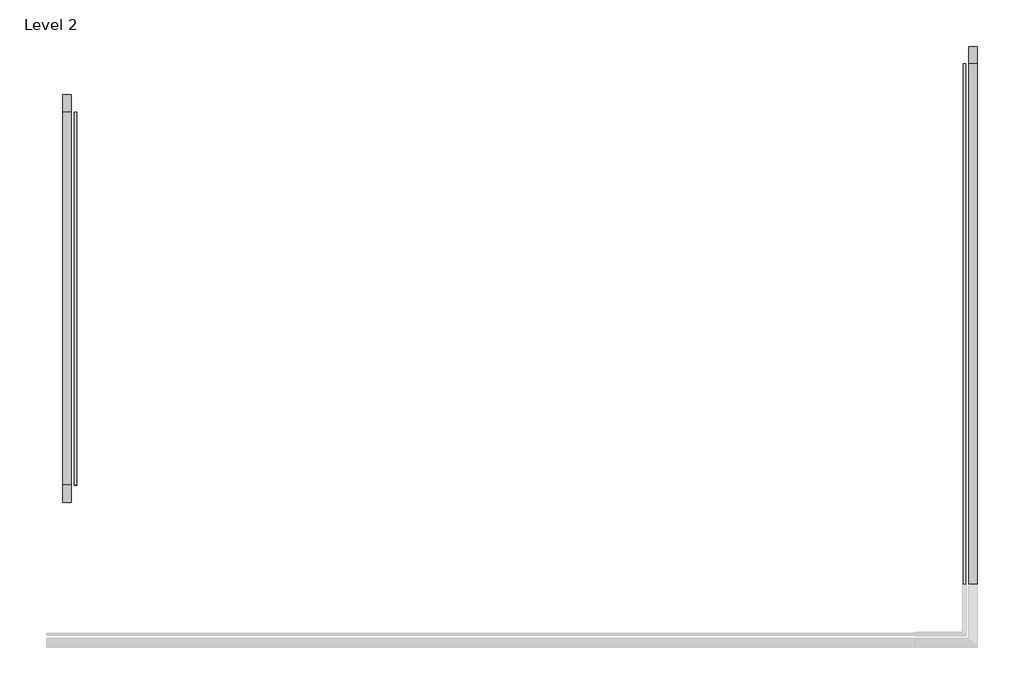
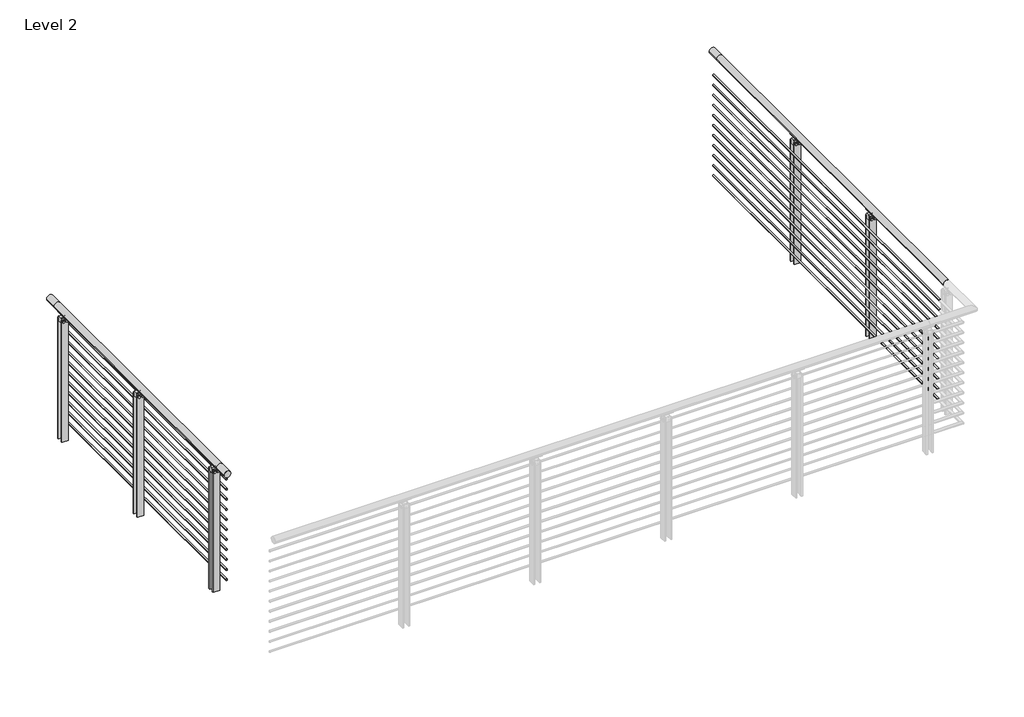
# One storey, part 15 of 31: 2 railings.
"""IFC4 building model written with IfcOpenShell, lengths in millimetres."""

from ifc_helpers import new_model, si_unit, point, frame, frame_2d, origin, place, context, project, spatial, polyline, circle_curve, trimmed, segment, composite_curve, outline, extrude, element, save
from ifc_brep_helpers import plane_surface, cylinder_surface, revolved_surface, advanced_brep

model = new_model("IFC4")

# Units and contexts
model_context = context("Model", 3, world=origin())
ifc_project = project(units=[si_unit("LENGTHUNIT", "METRE", prefix="MILLI")], contexts=[model_context])

# Site, building, storey
site = spatial("IfcSite", under=ifc_project)
building = spatial("IfcBuilding", under=site)
storey = spatial("IfcBuildingStorey", under=building, Name="Level 2", Elevation=3048.0)

# Railings
placement = place(None, origin())
element("IfcRailing", 1, ObjectType="VIVA-BLADE-Multiline-Weld Mount-Straight", at=placement, inside=storey, context=model_context, shape_type="SolidModel", body=[
    advanced_brep(
    [(41179.5572927, -69164.3733194, 4102.1), (41128.7572927, -69164.3733194, 4102.1), (41179.5572927, -69062.7733194, 4102.1), (41128.7572927, -69062.7733194, 4102.1), (41179.5572927, -66878.3733194, 4102.1), (41128.7572927, -66878.3733194, 4102.1), (41179.5572927, -66776.7733194, 4102.1), (41128.7572927, -66776.7733194, 4102.1)],
    [
        (0, 1, circle_curve(frame((41154.1572927, -69164.3733194, 4102.1), z_axis=(0.0, -1.0, 0.0), x_axis=(-1.0, 0.0, 0.0)), 25.4)),
        (1, 0, circle_curve(frame((41154.1572927, -69164.3733194, 4102.1), z_axis=(0.0, -1.0, 0.0), x_axis=(-1.0, 0.0, 0.0)), 25.4)),
        (0, 2),
        (2, 3, circle_curve(frame((41154.1572927, -69062.7733194, 4102.1), z_axis=(0.0, -1.0, 0.0), x_axis=(-1.0, 0.0, 0.0)), 25.4)),
        (3, 1),
        (3, 2, circle_curve(frame((41154.1572927, -69062.7733194, 4102.1), z_axis=(0.0, -1.0, 0.0), x_axis=(-1.0, 0.0, 0.0)), 25.4)),
        (2, 4),
        (4, 5, circle_curve(frame((41154.1572927, -66878.3733194, 4102.1), z_axis=(0.0, -1.0, 0.0), x_axis=(-1.0, 0.0, 0.0)), 25.4)),
        (5, 3),
        (5, 4, circle_curve(frame((41154.1572927, -66878.3733194, 4102.1), z_axis=(0.0, -1.0, 0.0), x_axis=(-1.0, 0.0, 0.0)), 25.4)),
        (6, 7, circle_curve(frame((41154.1572927, -66776.7733194, 4102.1), z_axis=(0.0, 1.0, 0.0), x_axis=(-1.0, 0.0, 0.0)), 25.4)),
        (7, 6, circle_curve(frame((41154.1572927, -66776.7733194, 4102.1), z_axis=(0.0, 1.0, 0.0), x_axis=(-1.0, 0.0, 0.0)), 25.4)),
        (4, 6),
        (7, 5),
    ],
    [
        plane_surface(frame((41154.1572927, -69164.3733194, 4127.5), z_axis=(0.0, -1.0, 0.0), x_axis=(0.0, 0.0, 1.0))),
        cylinder_surface(frame((41154.1572927, -69164.3733194, 4102.1), z_axis=(0.0, -1.0, 0.0), x_axis=(-1.0, 0.0, 0.0)), 25.4),
        cylinder_surface(frame((41154.1572927, -69062.7733194, 4102.1), z_axis=(0.0, -1.0, 0.0), x_axis=(-1.0, 0.0, 0.0)), 25.4),
        plane_surface(frame((41154.1572927, -66776.7733194, 4127.5), z_axis=(0.0, 1.0, 0.0), x_axis=(0.0, 0.0, 1.0))),
        cylinder_surface(frame((41154.1572927, -66878.3733194, 4102.1), z_axis=(0.0, -1.0, 0.0), x_axis=(-1.0, 0.0, 0.0)), 25.4),
    ],
    [
        (0, [[1, 2]]),
        (1, [[-1, 3, 4, 5]]),
        (1, [[-2, -5, 6, -3]]),
        (2, [[-4, 7, 8, 9]]),
        (2, [[-6, -9, 10, -7]]),
        (3, [[11, 12]]),
        (4, [[-8, 13, -12, 14]]),
        (4, [[-10, -14, -11, -13]]),
    ],
),
    extrude(outline(composite_curve([segment(trimmed(circle_curve(frame_2d((3981.45, 41204.9572927)), 6.35), [point((3981.45, 41211.3072927))], [point((3981.45, 41198.6072927))], False, "CARTESIAN"), True, "CONTINUOUS"), segment(trimmed(circle_curve(frame_2d((3981.45, 41204.9572927)), 6.35), [point((3981.45, 41198.6072927))], [point((3981.45, 41211.3072927))], False, "CARTESIAN"), True, "CONTINUOUS")], self_intersect=False)), frame((0.0, -69062.7733194, 0.0), z_axis=(0.0, 1.0, 0.0), x_axis=(0.0, 0.0, 1.0)), (0.0, 0.0, 1.0), 2184.4),
    extrude(outline(composite_curve([segment(trimmed(circle_curve(frame_2d((3898.9, 41204.9572927)), 6.35), [point((3898.9, 41211.3072927))], [point((3898.9, 41198.6072927))], False, "CARTESIAN"), True, "CONTINUOUS"), segment(trimmed(circle_curve(frame_2d((3898.9, 41204.9572927)), 6.35), [point((3898.9, 41198.6072927))], [point((3898.9, 41211.3072927))], False, "CARTESIAN"), True, "CONTINUOUS")], self_intersect=False)), frame((0.0, -69062.7733194, 0.0), z_axis=(0.0, 1.0, 0.0), x_axis=(0.0, 0.0, 1.0)), (0.0, 0.0, 1.0), 2184.4),
    extrude(outline(composite_curve([segment(trimmed(circle_curve(frame_2d((3816.35, 41204.9572927)), 6.35), [point((3816.35, 41211.3072927))], [point((3816.35, 41198.6072927))], False, "CARTESIAN"), True, "CONTINUOUS"), segment(trimmed(circle_curve(frame_2d((3816.35, 41204.9572927)), 6.35), [point((3816.35, 41198.6072927))], [point((3816.35, 41211.3072927))], False, "CARTESIAN"), True, "CONTINUOUS")], self_intersect=False)), frame((0.0, -69062.7733194, 0.0), z_axis=(0.0, 1.0, 0.0), x_axis=(0.0, 0.0, 1.0)), (0.0, 0.0, 1.0), 2184.4),
    extrude(outline(composite_curve([segment(trimmed(circle_curve(frame_2d((3733.8, 41204.9572927)), 6.35), [point((3733.8, 41211.3072927))], [point((3733.8, 41198.6072927))], False, "CARTESIAN"), True, "CONTINUOUS"), segment(trimmed(circle_curve(frame_2d((3733.8, 41204.9572927)), 6.35), [point((3733.8, 41198.6072927))], [point((3733.8, 41211.3072927))], False, "CARTESIAN"), True, "CONTINUOUS")], self_intersect=False)), frame((0.0, -69062.7733194, 0.0), z_axis=(0.0, 1.0, 0.0), x_axis=(0.0, 0.0, 1.0)), (0.0, 0.0, 1.0), 2184.4),
    extrude(outline(composite_curve([segment(trimmed(circle_curve(frame_2d((3651.25, 41204.9572927)), 6.35), [point((3651.25, 41211.3072927))], [point((3651.25, 41198.6072927))], False, "CARTESIAN"), True, "CONTINUOUS"), segment(trimmed(circle_curve(frame_2d((3651.25, 41204.9572927)), 6.35), [point((3651.25, 41198.6072927))], [point((3651.25, 41211.3072927))], False, "CARTESIAN"), True, "CONTINUOUS")], self_intersect=False)), frame((0.0, -69062.7733194, 0.0), z_axis=(0.0, 1.0, 0.0), x_axis=(0.0, 0.0, 1.0)), (0.0, 0.0, 1.0), 2184.4),
    extrude(outline(composite_curve([segment(trimmed(circle_curve(frame_2d((3568.7, 41204.9572927)), 6.35), [point((3568.7, 41211.3072927))], [point((3568.7, 41198.6072927))], False, "CARTESIAN"), True, "CONTINUOUS"), segment(trimmed(circle_curve(frame_2d((3568.7, 41204.9572927)), 6.35), [point((3568.7, 41198.6072927))], [point((3568.7, 41211.3072927))], False, "CARTESIAN"), True, "CONTINUOUS")], self_intersect=False)), frame((0.0, -69062.7733194, 0.0), z_axis=(0.0, 1.0, 0.0), x_axis=(0.0, 0.0, 1.0)), (0.0, 0.0, 1.0), 2184.4),
    extrude(outline(composite_curve([segment(trimmed(circle_curve(frame_2d((3486.15, 41204.9572927)), 6.35), [point((3486.15, 41211.3072927))], [point((3486.15, 41198.6072927))], False, "CARTESIAN"), True, "CONTINUOUS"), segment(trimmed(circle_curve(frame_2d((3486.15, 41204.9572927)), 6.35), [point((3486.15, 41198.6072927))], [point((3486.15, 41211.3072927))], False, "CARTESIAN"), True, "CONTINUOUS")], self_intersect=False)), frame((0.0, -69062.7733194, 0.0), z_axis=(0.0, 1.0, 0.0), x_axis=(0.0, 0.0, 1.0)), (0.0, 0.0, 1.0), 2184.4),
    extrude(outline(composite_curve([segment(trimmed(circle_curve(frame_2d((3403.6, 41204.9572927)), 6.35), [point((3403.6, 41211.3072927))], [point((3403.6, 41198.6072927))], False, "CARTESIAN"), True, "CONTINUOUS"), segment(trimmed(circle_curve(frame_2d((3403.6, 41204.9572927)), 6.35), [point((3403.6, 41198.6072927))], [point((3403.6, 41211.3072927))], False, "CARTESIAN"), True, "CONTINUOUS")], self_intersect=False)), frame((0.0, -69062.7733194, 0.0), z_axis=(0.0, 1.0, 0.0), x_axis=(0.0, 0.0, 1.0)), (0.0, 0.0, 1.0), 2184.4),
    extrude(outline(composite_curve([segment(trimmed(circle_curve(frame_2d((3321.05, 41204.9572927)), 6.35), [point((3321.05, 41211.3072927))], [point((3321.05, 41198.6072927))], False, "CARTESIAN"), True, "CONTINUOUS"), segment(trimmed(circle_curve(frame_2d((3321.05, 41204.9572927)), 6.35), [point((3321.05, 41198.6072927))], [point((3321.05, 41211.3072927))], False, "CARTESIAN"), True, "CONTINUOUS")], self_intersect=False)), frame((0.0, -69062.7733194, 0.0), z_axis=(0.0, 1.0, 0.0), x_axis=(0.0, 0.0, 1.0)), (0.0, 0.0, 1.0), 2184.4),
    extrude(outline(composite_curve([segment(trimmed(circle_curve(frame_2d((3238.5, 41204.9572927)), 6.35), [point((3238.5, 41211.3072927))], [point((3238.5, 41198.6072927))], False, "CARTESIAN"), True, "CONTINUOUS"), segment(trimmed(circle_curve(frame_2d((3238.5, 41204.9572927)), 6.35), [point((3238.5, 41198.6072927))], [point((3238.5, 41211.3072927))], False, "CARTESIAN"), True, "CONTINUOUS")], self_intersect=False)), frame((0.0, -69062.7733194, 0.0), z_axis=(0.0, 1.0, 0.0), x_axis=(0.0, 0.0, 1.0)), (0.0, 0.0, 1.0), 2184.4),
    extrude(outline(composite_curve([segment(trimmed(circle_curve(frame_2d((3155.95, 41204.9572927)), 6.35), [point((3155.95, 41211.3072927))], [point((3155.95, 41198.6072927))], False, "CARTESIAN"), True, "CONTINUOUS"), segment(trimmed(circle_curve(frame_2d((3155.95, 41204.9572927)), 6.35), [point((3155.95, 41198.6072927))], [point((3155.95, 41211.3072927))], False, "CARTESIAN"), True, "CONTINUOUS")], self_intersect=False)), frame((0.0, -69062.7733194, 0.0), z_axis=(0.0, 1.0, 0.0), x_axis=(0.0, 0.0, 1.0)), (0.0, 0.0, 1.0), 2184.4),
    advanced_brep(
    [(41166.9174163, -66909.3359194, 4080.0967655), (41170.7533137, -66909.3359194, 4075.707533), (41139.2364215, -66909.3359194, 4075.1267745), (41142.0453518, -66909.3359194, 4079.9535285), (41166.9174163, -66999.8107194, 4080.0967655), (41141.9583797, -66999.8107194, 4080.0018447), (41139.1226281, -66999.8107194, 4075.1893964), (41170.7533137, -66999.8107194, 4075.707533)],
    [
        (0, 1, circle_curve(frame((41168.464974, -66909.3359194, 4077.5784521), z_axis=(0.0, 1.0, 0.0), x_axis=(1.0, 0.0, 0.0)), 2.9558141)),
        (1, 2, circle_curve(frame((41154.4870765, -66909.3359194, 4102.9742164), z_axis=(0.0, 1.0, 0.0), x_axis=(1.0, 0.0, 0.0)), 31.75)),
        (2, 3, circle_curve(frame((41140.7137265, -66909.3359194, 4077.4993599), z_axis=(0.0, 1.0, 0.0), x_axis=(1.0, 0.0, 0.0)), 2.7949225)),
        (3, 0, circle_curve(frame((41154.3536134, -66909.3359194, 4102.2115898), z_axis=(0.0, -1.0, 0.0), x_axis=(1.0, 0.0, 0.0)), 25.4345159)),
        (4, 5, circle_curve(frame((41154.3536134, -66999.8107194, 4102.2115898), z_axis=(0.0, 1.0, 0.0), x_axis=(1.0, 0.0, 0.0)), 25.4345159)),
        (5, 6, circle_curve(frame((41140.7137265, -66999.8107194, 4077.4993599), z_axis=(0.0, -1.0, 0.0), x_axis=(1.0, 0.0, 0.0)), 2.7949225)),
        (6, 7, circle_curve(frame((41154.4870765, -66999.8107194, 4102.9742164), z_axis=(0.0, -1.0, 0.0), x_axis=(1.0, 0.0, 0.0)), 31.75)),
        (7, 4, circle_curve(frame((41168.464974, -66999.8107194, 4077.5784521), z_axis=(0.0, -1.0, 0.0), x_axis=(1.0, 0.0, 0.0)), 2.9558141)),
        (3, 5),
        (4, 0),
        (2, 6),
        (1, 7),
    ],
    [
        plane_surface(frame((41179.7881293, -66909.3359194, 4102.2115898), z_axis=(0.0, 1.0, 0.0), x_axis=(0.0, 0.0, -1.0))),
        plane_surface(frame((41179.7881293, -66999.8107194, 4102.2115898), z_axis=(0.0, -1.0, 0.0), x_axis=(0.0, 0.0, 1.0))),
        revolved_surface(polyline([(41179.7881293, -66999.8107194, 4102.2115898), (41179.7881293, -66909.3359194, 4102.2115898)]), (41154.3536134, -66999.8107194, 4102.2115898), (0.0, -1.0, 0.0)),
        cylinder_surface(frame((41140.7137265, -66999.8107194, 4077.4993599), z_axis=(0.0, 1.0, 0.0), x_axis=(1.0, 0.0, 0.0)), 2.7949225),
        cylinder_surface(frame((41154.4870765, -66999.8107194, 4102.9742164), z_axis=(0.0, 1.0, 0.0), x_axis=(1.0, 0.0, 0.0)), 31.75),
        cylinder_surface(frame((41168.464974, -66999.8107194, 4077.5784521), z_axis=(0.0, 1.0, 0.0), x_axis=(1.0, 0.0, 0.0)), 2.9558141),
    ],
    [
        (0, [[1, 2, 3, 4]]),
        (1, [[5, 6, 7, 8]]),
        (2, [[9, -5, 10, -4]]),
        (3, [[11, -6, -9, -3]]),
        (4, [[12, -7, -11, -2]]),
        (5, [[-10, -8, -12, -1]]),
    ],
),
    extrude(outline(composite_curve([segment(polyline([(-66941.8733194, 4062.4125), (-66967.2733194, 4062.4125)]), True, "CONTINUOUS"), segment(trimmed(circle_curve(frame_2d((-66981.6412343, 4062.4125)), 14.3679149), [point((-66967.2733194, 4062.4125))], [point((-66981.6412343, 4076.7804149))], True, "CARTESIAN"), True, "CONTINUOUS"), segment(polyline([(-66981.6412343, 4076.7804149), (-66927.5054045, 4076.7804149)]), True, "CONTINUOUS"), segment(trimmed(circle_curve(frame_2d((-66927.5054045, 4062.4125)), 14.3679149), [point((-66927.5054045, 4076.7804149))], [point((-66941.8733194, 4062.4125))], True, "CARTESIAN"), True, "CONTINUOUS")], self_intersect=False)), frame((41151.6172927, 0.0, 0.0), z_axis=(1.0, 0.0, 0.0), x_axis=(0.0, 1.0, 0.0)), (0.0, 0.0, 1.0), 5.08),
    extrude(outline(polyline([(41179.5570894, -66981.6481551), (41128.7547647, -66981.6481551), (41128.7547647, -66973.6233194), (41179.5570894, -66973.6233194), (41179.5570894, -66981.6481551)])), frame((0.0, 0.0, 3048.0), z_axis=(0.0, 0.0, 1.0), x_axis=(1.0, 0.0, 0.0)), (0.0, 0.0, 1.0), 996.95),
    extrude(outline(composite_curve([segment(trimmed(circle_curve(frame_2d((4034.0416929, 41141.4548158)), 8.89), [point((4034.0416929, 41132.5648158))], [point((4034.0416929, 41150.3448158))], False, "CARTESIAN"), True, "CONTINUOUS"), segment(trimmed(circle_curve(frame_2d((4034.0416929, 41141.4548158)), 8.89), [point((4034.0416929, 41150.3448158))], [point((4034.0416929, 41132.5648158))], False, "CARTESIAN"), True, "CONTINUOUS")], self_intersect=False)), frame((0.0, -66986.3233194, 0.0), z_axis=(0.0, 1.0, 0.0), x_axis=(0.0, 0.0, 1.0)), (0.0, 0.0, 1.0), 63.4880631),
    extrude(outline(composite_curve([segment(trimmed(circle_curve(frame_2d((4034.0416929, 41166.8547137)), 8.89), [point((4034.0416929, 41157.9647137))], [point((4034.0416929, 41175.7447137))], False, "CARTESIAN"), True, "CONTINUOUS"), segment(trimmed(circle_curve(frame_2d((4034.0416929, 41166.8547137)), 8.89), [point((4034.0416929, 41175.7447137))], [point((4034.0416929, 41157.9647137))], False, "CARTESIAN"), True, "CONTINUOUS")], self_intersect=False)), frame((0.0, -66986.3233194, 0.0), z_axis=(0.0, 1.0, 0.0), x_axis=(0.0, 0.0, 1.0)), (0.0, 0.0, 1.0), 63.4880631),
    extrude(outline(polyline([(-66973.6233194, 4022.7123), (-66973.6233194, 4056.0625), (-66967.2733194, 4062.4125), (-66941.8733194, 4062.4125), (-66935.5233194, 4056.0625), (-66935.5233194, 4022.7123), (-66973.6233194, 4022.7123)])), frame((41128.7547647, 0.0, 0.0), z_axis=(1.0, 0.0, 0.0), x_axis=(0.0, 1.0, 0.0)), (0.0, 0.0, 1.0), 50.8025279),
    extrude(outline(polyline([(41179.5570894, -66935.5233574), (41128.7547647, -66935.5233574), (41128.7547647, -66927.5223574), (41179.5570894, -66927.5223574), (41179.5570894, -66935.5233574)])), frame((0.0, 0.0, 3048.0), z_axis=(0.0, 0.0, 1.0), x_axis=(1.0, 0.0, 0.0)), (0.0, 0.0, 1.0), 996.95),
    advanced_brep(
    [(41166.9174163, -67925.3359194, 4080.0967655), (41170.7533137, -67925.3359194, 4075.707533), (41139.2364215, -67925.3359194, 4075.1267745), (41142.0453518, -67925.3359194, 4079.9535285), (41166.9174163, -68015.8107194, 4080.0967655), (41141.9583797, -68015.8107194, 4080.0018447), (41139.1226281, -68015.8107194, 4075.1893964), (41170.7533137, -68015.8107194, 4075.707533)],
    [
        (0, 1, circle_curve(frame((41168.464974, -67925.3359194, 4077.5784521), z_axis=(0.0, 1.0, 0.0), x_axis=(1.0, 0.0, 0.0)), 2.9558141)),
        (1, 2, circle_curve(frame((41154.4870765, -67925.3359194, 4102.9742164), z_axis=(0.0, 1.0, 0.0), x_axis=(1.0, 0.0, 0.0)), 31.75)),
        (2, 3, circle_curve(frame((41140.7137265, -67925.3359194, 4077.4993599), z_axis=(0.0, 1.0, 0.0), x_axis=(1.0, 0.0, 0.0)), 2.7949225)),
        (3, 0, circle_curve(frame((41154.3536134, -67925.3359194, 4102.2115898), z_axis=(0.0, -1.0, 0.0), x_axis=(1.0, 0.0, 0.0)), 25.4345159)),
        (4, 5, circle_curve(frame((41154.3536134, -68015.8107194, 4102.2115898), z_axis=(0.0, 1.0, 0.0), x_axis=(1.0, 0.0, 0.0)), 25.4345159)),
        (5, 6, circle_curve(frame((41140.7137265, -68015.8107194, 4077.4993599), z_axis=(0.0, -1.0, 0.0), x_axis=(1.0, 0.0, 0.0)), 2.7949225)),
        (6, 7, circle_curve(frame((41154.4870765, -68015.8107194, 4102.9742164), z_axis=(0.0, -1.0, 0.0), x_axis=(1.0, 0.0, 0.0)), 31.75)),
        (7, 4, circle_curve(frame((41168.464974, -68015.8107194, 4077.5784521), z_axis=(0.0, -1.0, 0.0), x_axis=(1.0, 0.0, 0.0)), 2.9558141)),
        (3, 5),
        (4, 0),
        (2, 6),
        (1, 7),
    ],
    [
        plane_surface(frame((41179.7881293, -67925.3359194, 4102.2115898), z_axis=(0.0, 1.0, 0.0), x_axis=(0.0, 0.0, -1.0))),
        plane_surface(frame((41179.7881293, -68015.8107194, 4102.2115898), z_axis=(0.0, -1.0, 0.0), x_axis=(0.0, 0.0, 1.0))),
        revolved_surface(polyline([(41179.7881293, -68015.8107194, 4102.2115898), (41179.7881293, -67925.3359194, 4102.2115898)]), (41154.3536134, -68015.8107194, 4102.2115898), (0.0, -1.0, 0.0)),
        cylinder_surface(frame((41140.7137265, -68015.8107194, 4077.4993599), z_axis=(0.0, 1.0, 0.0), x_axis=(1.0, 0.0, 0.0)), 2.7949225),
        cylinder_surface(frame((41154.4870765, -68015.8107194, 4102.9742164), z_axis=(0.0, 1.0, 0.0), x_axis=(1.0, 0.0, 0.0)), 31.75),
        cylinder_surface(frame((41168.464974, -68015.8107194, 4077.5784521), z_axis=(0.0, 1.0, 0.0), x_axis=(1.0, 0.0, 0.0)), 2.9558141),
    ],
    [
        (0, [[1, 2, 3, 4]]),
        (1, [[5, 6, 7, 8]]),
        (2, [[9, -5, 10, -4]]),
        (3, [[11, -6, -9, -3]]),
        (4, [[12, -7, -11, -2]]),
        (5, [[-10, -8, -12, -1]]),
    ],
),
    extrude(outline(composite_curve([segment(polyline([(-67957.8733194, 4062.4125), (-67983.2733194, 4062.4125)]), True, "CONTINUOUS"), segment(trimmed(circle_curve(frame_2d((-67997.6412343, 4062.4125)), 14.3679149), [point((-67983.2733194, 4062.4125))], [point((-67997.6412343, 4076.7804149))], True, "CARTESIAN"), True, "CONTINUOUS"), segment(polyline([(-67997.6412343, 4076.7804149), (-67943.5054045, 4076.7804149)]), True, "CONTINUOUS"), segment(trimmed(circle_curve(frame_2d((-67943.5054045, 4062.4125)), 14.3679149), [point((-67943.5054045, 4076.7804149))], [point((-67957.8733194, 4062.4125))], True, "CARTESIAN"), True, "CONTINUOUS")], self_intersect=False)), frame((41151.6172927, 0.0, 0.0), z_axis=(1.0, 0.0, 0.0), x_axis=(0.0, 1.0, 0.0)), (0.0, 0.0, 1.0), 5.08),
    extrude(outline(polyline([(41179.5570894, -67997.6481551), (41128.7547647, -67997.6481551), (41128.7547647, -67989.6233194), (41179.5570894, -67989.6233194), (41179.5570894, -67997.6481551)])), frame((0.0, 0.0, 3048.0), z_axis=(0.0, 0.0, 1.0), x_axis=(1.0, 0.0, 0.0)), (0.0, 0.0, 1.0), 996.95),
    extrude(outline(composite_curve([segment(trimmed(circle_curve(frame_2d((4034.0416929, 41141.4548158)), 8.89), [point((4034.0416929, 41132.5648158))], [point((4034.0416929, 41150.3448158))], False, "CARTESIAN"), True, "CONTINUOUS"), segment(trimmed(circle_curve(frame_2d((4034.0416929, 41141.4548158)), 8.89), [point((4034.0416929, 41150.3448158))], [point((4034.0416929, 41132.5648158))], False, "CARTESIAN"), True, "CONTINUOUS")], self_intersect=False)), frame((0.0, -68002.3233194, 0.0), z_axis=(0.0, 1.0, 0.0), x_axis=(0.0, 0.0, 1.0)), (0.0, 0.0, 1.0), 63.4880631),
    extrude(outline(composite_curve([segment(trimmed(circle_curve(frame_2d((4034.0416929, 41166.8547137)), 8.89), [point((4034.0416929, 41157.9647137))], [point((4034.0416929, 41175.7447137))], False, "CARTESIAN"), True, "CONTINUOUS"), segment(trimmed(circle_curve(frame_2d((4034.0416929, 41166.8547137)), 8.89), [point((4034.0416929, 41175.7447137))], [point((4034.0416929, 41157.9647137))], False, "CARTESIAN"), True, "CONTINUOUS")], self_intersect=False)), frame((0.0, -68002.3233194, 0.0), z_axis=(0.0, 1.0, 0.0), x_axis=(0.0, 0.0, 1.0)), (0.0, 0.0, 1.0), 63.4880631),
    extrude(outline(polyline([(-67989.6233194, 4022.7123), (-67989.6233194, 4056.0625), (-67983.2733194, 4062.4125), (-67957.8733194, 4062.4125), (-67951.5233194, 4056.0625), (-67951.5233194, 4022.7123), (-67989.6233194, 4022.7123)])), frame((41128.7547647, 0.0, 0.0), z_axis=(1.0, 0.0, 0.0), x_axis=(0.0, 1.0, 0.0)), (0.0, 0.0, 1.0), 50.8025279),
    extrude(outline(polyline([(41179.5570894, -67951.5233574), (41128.7547647, -67951.5233574), (41128.7547647, -67943.5223574), (41179.5570894, -67943.5223574), (41179.5570894, -67951.5233574)])), frame((0.0, 0.0, 3048.0), z_axis=(0.0, 0.0, 1.0), x_axis=(1.0, 0.0, 0.0)), (0.0, 0.0, 1.0), 996.95),
    advanced_brep(
    [(41166.9174163, -68941.3359194, 4080.0967655), (41170.7533137, -68941.3359194, 4075.707533), (41139.2364215, -68941.3359194, 4075.1267745), (41142.0453518, -68941.3359194, 4079.9535285), (41166.9174163, -69031.8107194, 4080.0967655), (41141.9583797, -69031.8107194, 4080.0018447), (41139.1226281, -69031.8107194, 4075.1893964), (41170.7533137, -69031.8107194, 4075.707533)],
    [
        (0, 1, circle_curve(frame((41168.464974, -68941.3359194, 4077.5784521), z_axis=(0.0, 1.0, 0.0), x_axis=(1.0, 0.0, 0.0)), 2.9558141)),
        (1, 2, circle_curve(frame((41154.4870765, -68941.3359194, 4102.9742164), z_axis=(0.0, 1.0, 0.0), x_axis=(1.0, 0.0, 0.0)), 31.75)),
        (2, 3, circle_curve(frame((41140.7137265, -68941.3359194, 4077.4993599), z_axis=(0.0, 1.0, 0.0), x_axis=(1.0, 0.0, 0.0)), 2.7949225)),
        (3, 0, circle_curve(frame((41154.3536134, -68941.3359194, 4102.2115898), z_axis=(0.0, -1.0, 0.0), x_axis=(1.0, 0.0, 0.0)), 25.4345159)),
        (4, 5, circle_curve(frame((41154.3536134, -69031.8107194, 4102.2115898), z_axis=(0.0, 1.0, 0.0), x_axis=(1.0, 0.0, 0.0)), 25.4345159)),
        (5, 6, circle_curve(frame((41140.7137265, -69031.8107194, 4077.4993599), z_axis=(0.0, -1.0, 0.0), x_axis=(1.0, 0.0, 0.0)), 2.7949225)),
        (6, 7, circle_curve(frame((41154.4870765, -69031.8107194, 4102.9742164), z_axis=(0.0, -1.0, 0.0), x_axis=(1.0, 0.0, 0.0)), 31.75)),
        (7, 4, circle_curve(frame((41168.464974, -69031.8107194, 4077.5784521), z_axis=(0.0, -1.0, 0.0), x_axis=(1.0, 0.0, 0.0)), 2.9558141)),
        (3, 5),
        (4, 0),
        (2, 6),
        (1, 7),
    ],
    [
        plane_surface(frame((41179.7881293, -68941.3359194, 4102.2115898), z_axis=(0.0, 1.0, 0.0), x_axis=(0.0, 0.0, -1.0))),
        plane_surface(frame((41179.7881293, -69031.8107194, 4102.2115898), z_axis=(0.0, -1.0, 0.0), x_axis=(0.0, 0.0, 1.0))),
        revolved_surface(polyline([(41179.7881293, -69031.8107194, 4102.2115898), (41179.7881293, -68941.3359194, 4102.2115898)]), (41154.3536134, -69031.8107194, 4102.2115898), (0.0, -1.0, 0.0)),
        cylinder_surface(frame((41140.7137265, -69031.8107194, 4077.4993599), z_axis=(0.0, 1.0, 0.0), x_axis=(1.0, 0.0, 0.0)), 2.7949225),
        cylinder_surface(frame((41154.4870765, -69031.8107194, 4102.9742164), z_axis=(0.0, 1.0, 0.0), x_axis=(1.0, 0.0, 0.0)), 31.75),
        cylinder_surface(frame((41168.464974, -69031.8107194, 4077.5784521), z_axis=(0.0, 1.0, 0.0), x_axis=(1.0, 0.0, 0.0)), 2.9558141),
    ],
    [
        (0, [[1, 2, 3, 4]]),
        (1, [[5, 6, 7, 8]]),
        (2, [[9, -5, 10, -4]]),
        (3, [[11, -6, -9, -3]]),
        (4, [[12, -7, -11, -2]]),
        (5, [[-10, -8, -12, -1]]),
    ],
),
    extrude(outline(composite_curve([segment(polyline([(-68973.8733194, 4062.4125), (-68999.2733194, 4062.4125)]), True, "CONTINUOUS"), segment(trimmed(circle_curve(frame_2d((-69013.6412343, 4062.4125)), 14.3679149), [point((-68999.2733194, 4062.4125))], [point((-69013.6412343, 4076.7804149))], True, "CARTESIAN"), True, "CONTINUOUS"), segment(polyline([(-69013.6412343, 4076.7804149), (-68959.5054045, 4076.7804149)]), True, "CONTINUOUS"), segment(trimmed(circle_curve(frame_2d((-68959.5054045, 4062.4125)), 14.3679149), [point((-68959.5054045, 4076.7804149))], [point((-68973.8733194, 4062.4125))], True, "CARTESIAN"), True, "CONTINUOUS")], self_intersect=False)), frame((41151.6172927, 0.0, 0.0), z_axis=(1.0, 0.0, 0.0), x_axis=(0.0, 1.0, 0.0)), (0.0, 0.0, 1.0), 5.08),
    extrude(outline(polyline([(41179.5570894, -69013.6481551), (41128.7547647, -69013.6481551), (41128.7547647, -69005.6233194), (41179.5570894, -69005.6233194), (41179.5570894, -69013.6481551)])), frame((0.0, 0.0, 3048.0), z_axis=(0.0, 0.0, 1.0), x_axis=(1.0, 0.0, 0.0)), (0.0, 0.0, 1.0), 996.95),
    extrude(outline(composite_curve([segment(trimmed(circle_curve(frame_2d((4034.0416929, 41141.4548158)), 8.89), [point((4034.0416929, 41132.5648158))], [point((4034.0416929, 41150.3448158))], False, "CARTESIAN"), True, "CONTINUOUS"), segment(trimmed(circle_curve(frame_2d((4034.0416929, 41141.4548158)), 8.89), [point((4034.0416929, 41150.3448158))], [point((4034.0416929, 41132.5648158))], False, "CARTESIAN"), True, "CONTINUOUS")], self_intersect=False)), frame((0.0, -69018.3233194, 0.0), z_axis=(0.0, 1.0, 0.0), x_axis=(0.0, 0.0, 1.0)), (0.0, 0.0, 1.0), 63.4880631),
    extrude(outline(composite_curve([segment(trimmed(circle_curve(frame_2d((4034.0416929, 41166.8547137)), 8.89), [point((4034.0416929, 41157.9647137))], [point((4034.0416929, 41175.7447137))], False, "CARTESIAN"), True, "CONTINUOUS"), segment(trimmed(circle_curve(frame_2d((4034.0416929, 41166.8547137)), 8.89), [point((4034.0416929, 41175.7447137))], [point((4034.0416929, 41157.9647137))], False, "CARTESIAN"), True, "CONTINUOUS")], self_intersect=False)), frame((0.0, -69018.3233194, 0.0), z_axis=(0.0, 1.0, 0.0), x_axis=(0.0, 0.0, 1.0)), (0.0, 0.0, 1.0), 63.4880631),
    extrude(outline(polyline([(-69005.6233194, 4022.7123), (-69005.6233194, 4056.0625), (-68999.2733194, 4062.4125), (-68973.8733194, 4062.4125), (-68967.5233194, 4056.0625), (-68967.5233194, 4022.7123), (-69005.6233194, 4022.7123)])), frame((41128.7547647, 0.0, 0.0), z_axis=(1.0, 0.0, 0.0), x_axis=(0.0, 1.0, 0.0)), (0.0, 0.0, 1.0), 50.8025279),
    extrude(outline(polyline([(41179.5570894, -68967.5233574), (41128.7547647, -68967.5233574), (41128.7547647, -68959.5223574), (41179.5570894, -68959.5223574), (41179.5570894, -68967.5233574)])), frame((0.0, 0.0, 3048.0), z_axis=(0.0, 0.0, 1.0), x_axis=(1.0, 0.0, 0.0)), (0.0, 0.0, 1.0), 996.95),
])
element("IfcRailing", 2, ObjectType="VIVA-BLADE-Multiline-Weld Mount-Straight", at=placement, inside=storey, context=model_context, shape_type="SolidModel", body=[
    advanced_brep(
    [(46483.3893621, -69643.4426165, 4102.1), (46432.5893621, -69643.4426165, 4102.1), (46483.3893621, -66595.4426165, 4102.1), (46432.5893621, -66595.4426165, 4102.1), (46483.3893621, -66493.8426165, 4102.1), (46432.5893621, -66493.8426165, 4102.1)],
    [
        (0, 1, circle_curve(frame((46457.9893621, -69643.4426165, 4102.1), z_axis=(0.0, -1.0, 0.0), x_axis=(-1.0, 0.0, 0.0)), 25.4)),
        (1, 0, circle_curve(frame((46457.9893621, -69643.4426165, 4102.1), z_axis=(0.0, -1.0, 0.0), x_axis=(-1.0, 0.0, 0.0)), 25.4)),
        (0, 2),
        (2, 3, circle_curve(frame((46457.9893621, -66595.4426165, 4102.1), z_axis=(0.0, -1.0, 0.0), x_axis=(-1.0, 0.0, 0.0)), 25.4)),
        (3, 1),
        (3, 2, circle_curve(frame((46457.9893621, -66595.4426165, 4102.1), z_axis=(0.0, -1.0, 0.0), x_axis=(-1.0, 0.0, 0.0)), 25.4)),
        (4, 5, circle_curve(frame((46457.9893621, -66493.8426165, 4102.1), z_axis=(0.0, 1.0, 0.0), x_axis=(-1.0, 0.0, 0.0)), 25.4)),
        (5, 4, circle_curve(frame((46457.9893621, -66493.8426165, 4102.1), z_axis=(0.0, 1.0, 0.0), x_axis=(-1.0, 0.0, 0.0)), 25.4)),
        (2, 4),
        (5, 3),
    ],
    [
        plane_surface(frame((46457.9893621, -69643.4426165, 4127.5), z_axis=(0.0, -1.0, 0.0), x_axis=(0.0, 0.0, 1.0))),
        cylinder_surface(frame((46457.9893621, -69643.4426165, 4102.1), z_axis=(0.0, -1.0, 0.0), x_axis=(-1.0, 0.0, 0.0)), 25.4),
        plane_surface(frame((46457.9893621, -66493.8426165, 4127.5), z_axis=(0.0, 1.0, 0.0), x_axis=(0.0, 0.0, 1.0))),
        cylinder_surface(frame((46457.9893621, -66595.4426165, 4102.1), z_axis=(0.0, -1.0, 0.0), x_axis=(-1.0, 0.0, 0.0)), 25.4),
    ],
    [
        (0, [[1, 2]]),
        (1, [[-1, 3, 4, 5]]),
        (1, [[-2, -5, 6, -3]]),
        (2, [[7, 8]]),
        (3, [[-4, 9, -8, 10]]),
        (3, [[-6, -10, -7, -9]]),
    ],
),
    extrude(outline(composite_curve([segment(trimmed(circle_curve(frame_2d((3981.45, 46407.1893621)), 6.35), [point((3981.45, 46400.8393621))], [point((3981.45, 46413.5393621))], False, "CARTESIAN"), True, "CONTINUOUS"), segment(trimmed(circle_curve(frame_2d((3981.45, 46407.1893621)), 6.35), [point((3981.45, 46413.5393621))], [point((3981.45, 46400.8393621))], False, "CARTESIAN"), True, "CONTINUOUS")], self_intersect=False)), frame((0.0, -69643.4426165, 0.0), z_axis=(0.0, 1.0, 0.0), x_axis=(0.0, 0.0, 1.0)), (0.0, 0.0, 1.0), 3048.0),
    extrude(outline(composite_curve([segment(trimmed(circle_curve(frame_2d((3898.9, 46407.1893621)), 6.35), [point((3898.9, 46400.8393621))], [point((3898.9, 46413.5393621))], False, "CARTESIAN"), True, "CONTINUOUS"), segment(trimmed(circle_curve(frame_2d((3898.9, 46407.1893621)), 6.35), [point((3898.9, 46413.5393621))], [point((3898.9, 46400.8393621))], False, "CARTESIAN"), True, "CONTINUOUS")], self_intersect=False)), frame((0.0, -69643.4426165, 0.0), z_axis=(0.0, 1.0, 0.0), x_axis=(0.0, 0.0, 1.0)), (0.0, 0.0, 1.0), 3048.0),
    extrude(outline(composite_curve([segment(trimmed(circle_curve(frame_2d((3816.35, 46407.1893621)), 6.35), [point((3816.35, 46400.8393621))], [point((3816.35, 46413.5393621))], False, "CARTESIAN"), True, "CONTINUOUS"), segment(trimmed(circle_curve(frame_2d((3816.35, 46407.1893621)), 6.35), [point((3816.35, 46413.5393621))], [point((3816.35, 46400.8393621))], False, "CARTESIAN"), True, "CONTINUOUS")], self_intersect=False)), frame((0.0, -69643.4426165, 0.0), z_axis=(0.0, 1.0, 0.0), x_axis=(0.0, 0.0, 1.0)), (0.0, 0.0, 1.0), 3048.0),
    extrude(outline(composite_curve([segment(trimmed(circle_curve(frame_2d((3733.8, 46407.1893621)), 6.35), [point((3733.8, 46400.8393621))], [point((3733.8, 46413.5393621))], False, "CARTESIAN"), True, "CONTINUOUS"), segment(trimmed(circle_curve(frame_2d((3733.8, 46407.1893621)), 6.35), [point((3733.8, 46413.5393621))], [point((3733.8, 46400.8393621))], False, "CARTESIAN"), True, "CONTINUOUS")], self_intersect=False)), frame((0.0, -69643.4426165, 0.0), z_axis=(0.0, 1.0, 0.0), x_axis=(0.0, 0.0, 1.0)), (0.0, 0.0, 1.0), 3048.0),
    extrude(outline(composite_curve([segment(trimmed(circle_curve(frame_2d((3651.25, 46407.1893621)), 6.35), [point((3651.25, 46400.8393621))], [point((3651.25, 46413.5393621))], False, "CARTESIAN"), True, "CONTINUOUS"), segment(trimmed(circle_curve(frame_2d((3651.25, 46407.1893621)), 6.35), [point((3651.25, 46413.5393621))], [point((3651.25, 46400.8393621))], False, "CARTESIAN"), True, "CONTINUOUS")], self_intersect=False)), frame((0.0, -69643.4426165, 0.0), z_axis=(0.0, 1.0, 0.0), x_axis=(0.0, 0.0, 1.0)), (0.0, 0.0, 1.0), 3048.0),
    extrude(outline(composite_curve([segment(trimmed(circle_curve(frame_2d((3568.7, 46407.1893621)), 6.35), [point((3568.7, 46400.8393621))], [point((3568.7, 46413.5393621))], False, "CARTESIAN"), True, "CONTINUOUS"), segment(trimmed(circle_curve(frame_2d((3568.7, 46407.1893621)), 6.35), [point((3568.7, 46413.5393621))], [point((3568.7, 46400.8393621))], False, "CARTESIAN"), True, "CONTINUOUS")], self_intersect=False)), frame((0.0, -69643.4426165, 0.0), z_axis=(0.0, 1.0, 0.0), x_axis=(0.0, 0.0, 1.0)), (0.0, 0.0, 1.0), 3048.0),
    extrude(outline(composite_curve([segment(trimmed(circle_curve(frame_2d((3486.15, 46407.1893621)), 6.35), [point((3486.15, 46400.8393621))], [point((3486.15, 46413.5393621))], False, "CARTESIAN"), True, "CONTINUOUS"), segment(trimmed(circle_curve(frame_2d((3486.15, 46407.1893621)), 6.35), [point((3486.15, 46413.5393621))], [point((3486.15, 46400.8393621))], False, "CARTESIAN"), True, "CONTINUOUS")], self_intersect=False)), frame((0.0, -69643.4426165, 0.0), z_axis=(0.0, 1.0, 0.0), x_axis=(0.0, 0.0, 1.0)), (0.0, 0.0, 1.0), 3048.0),
    extrude(outline(composite_curve([segment(trimmed(circle_curve(frame_2d((3403.6, 46407.1893621)), 6.35), [point((3403.6, 46400.8393621))], [point((3403.6, 46413.5393621))], False, "CARTESIAN"), True, "CONTINUOUS"), segment(trimmed(circle_curve(frame_2d((3403.6, 46407.1893621)), 6.35), [point((3403.6, 46413.5393621))], [point((3403.6, 46400.8393621))], False, "CARTESIAN"), True, "CONTINUOUS")], self_intersect=False)), frame((0.0, -69643.4426165, 0.0), z_axis=(0.0, 1.0, 0.0), x_axis=(0.0, 0.0, 1.0)), (0.0, 0.0, 1.0), 3048.0),
    extrude(outline(composite_curve([segment(trimmed(circle_curve(frame_2d((3321.05, 46407.1893621)), 6.35), [point((3321.05, 46400.8393621))], [point((3321.05, 46413.5393621))], False, "CARTESIAN"), True, "CONTINUOUS"), segment(trimmed(circle_curve(frame_2d((3321.05, 46407.1893621)), 6.35), [point((3321.05, 46413.5393621))], [point((3321.05, 46400.8393621))], False, "CARTESIAN"), True, "CONTINUOUS")], self_intersect=False)), frame((0.0, -69643.4426165, 0.0), z_axis=(0.0, 1.0, 0.0), x_axis=(0.0, 0.0, 1.0)), (0.0, 0.0, 1.0), 3048.0),
    extrude(outline(composite_curve([segment(trimmed(circle_curve(frame_2d((3238.5, 46407.1893621)), 6.35), [point((3238.5, 46400.8393621))], [point((3238.5, 46413.5393621))], False, "CARTESIAN"), True, "CONTINUOUS"), segment(trimmed(circle_curve(frame_2d((3238.5, 46407.1893621)), 6.35), [point((3238.5, 46413.5393621))], [point((3238.5, 46400.8393621))], False, "CARTESIAN"), True, "CONTINUOUS")], self_intersect=False)), frame((0.0, -69643.4426165, 0.0), z_axis=(0.0, 1.0, 0.0), x_axis=(0.0, 0.0, 1.0)), (0.0, 0.0, 1.0), 3048.0),
    extrude(outline(composite_curve([segment(trimmed(circle_curve(frame_2d((3155.95, 46407.1893621)), 6.35), [point((3155.95, 46400.8393621))], [point((3155.95, 46413.5393621))], False, "CARTESIAN"), True, "CONTINUOUS"), segment(trimmed(circle_curve(frame_2d((3155.95, 46407.1893621)), 6.35), [point((3155.95, 46413.5393621))], [point((3155.95, 46400.8393621))], False, "CARTESIAN"), True, "CONTINUOUS")], self_intersect=False)), frame((0.0, -69643.4426165, 0.0), z_axis=(0.0, 1.0, 0.0), x_axis=(0.0, 0.0, 1.0)), (0.0, 0.0, 1.0), 3048.0),
    advanced_brep(
    [(46445.2292385, -67566.2052165, 4080.0967655), (46470.101303, -67566.2052165, 4079.9535285), (46472.9102333, -67566.2052165, 4075.1267745), (46441.3933411, -67566.2052165, 4075.707533), (46445.2292385, -67656.6800165, 4080.0967655), (46441.3933411, -67656.6800165, 4075.707533), (46473.0240267, -67656.6800165, 4075.1893964), (46470.1882752, -67656.6800165, 4080.0018447)],
    [
        (0, 1, circle_curve(frame((46457.7930414, -67566.2052165, 4102.2115898), z_axis=(0.0, -1.0, 0.0), x_axis=(-1.0, 0.0, 0.0)), 25.4345159)),
        (1, 2, circle_curve(frame((46471.4329283, -67566.2052165, 4077.4993599), z_axis=(0.0, 1.0, 0.0), x_axis=(-1.0, 0.0, 0.0)), 2.7949225)),
        (2, 3, circle_curve(frame((46457.6595783, -67566.2052165, 4102.9742164), z_axis=(0.0, 1.0, 0.0), x_axis=(-1.0, 0.0, 0.0)), 31.75)),
        (3, 0, circle_curve(frame((46443.6816808, -67566.2052165, 4077.5784521), z_axis=(0.0, 1.0, 0.0), x_axis=(-1.0, 0.0, 0.0)), 2.9558141)),
        (4, 5, circle_curve(frame((46443.6816808, -67656.6800165, 4077.5784521), z_axis=(0.0, -1.0, 0.0), x_axis=(-1.0, 0.0, 0.0)), 2.9558141)),
        (5, 6, circle_curve(frame((46457.6595783, -67656.6800165, 4102.9742164), z_axis=(0.0, -1.0, 0.0), x_axis=(-1.0, 0.0, 0.0)), 31.75)),
        (6, 7, circle_curve(frame((46471.4329283, -67656.6800165, 4077.4993599), z_axis=(0.0, -1.0, 0.0), x_axis=(-1.0, 0.0, 0.0)), 2.7949225)),
        (7, 4, circle_curve(frame((46457.7930414, -67656.6800165, 4102.2115898), z_axis=(0.0, 1.0, 0.0), x_axis=(-1.0, 0.0, 0.0)), 25.4345159)),
        (0, 4),
        (7, 1),
        (6, 2),
        (5, 3),
    ],
    [
        plane_surface(frame((46432.3585255, -67566.2052165, 4102.2115898), z_axis=(0.0, 1.0, 0.0), x_axis=(0.0, 0.0, -1.0))),
        plane_surface(frame((46432.3585255, -67656.6800165, 4102.2115898), z_axis=(0.0, -1.0, 0.0), x_axis=(0.0, 0.0, 1.0))),
        revolved_surface(polyline([(46432.3585255, -67656.6800165, 4102.2115898), (46432.3585255, -67566.2052165, 4102.2115898)]), (46457.7930414, -67656.6800165, 4102.2115898), (0.0, -1.0, 0.0)),
        cylinder_surface(frame((46471.4329283, -67656.6800165, 4077.4993599), z_axis=(0.0, 1.0, 0.0), x_axis=(-1.0, 0.0, 0.0)), 2.7949225),
        cylinder_surface(frame((46457.6595783, -67656.6800165, 4102.9742164), z_axis=(0.0, 1.0, 0.0), x_axis=(-1.0, 0.0, 0.0)), 31.75),
        cylinder_surface(frame((46443.6816808, -67656.6800165, 4077.5784521), z_axis=(0.0, 1.0, 0.0), x_axis=(-1.0, 0.0, 0.0)), 2.9558141),
    ],
    [
        (0, [[1, 2, 3, 4]]),
        (1, [[5, 6, 7, 8]]),
        (2, [[-1, 9, -8, 10]]),
        (3, [[-2, -10, -7, 11]]),
        (4, [[-3, -11, -6, 12]]),
        (5, [[-4, -12, -5, -9]]),
    ],
),
    extrude(outline(composite_curve([segment(polyline([(-67598.7426165, 4062.4125), (-67624.1426165, 4062.4125)]), True, "CONTINUOUS"), segment(trimmed(circle_curve(frame_2d((-67638.5105314, 4062.4125)), 14.3679149), [point((-67624.1426165, 4062.4125))], [point((-67638.5105314, 4076.7804149))], True, "CARTESIAN"), True, "CONTINUOUS"), segment(polyline([(-67638.5105314, 4076.7804149), (-67584.3747017, 4076.7804149)]), True, "CONTINUOUS"), segment(trimmed(circle_curve(frame_2d((-67584.3747017, 4062.4125)), 14.3679149), [point((-67584.3747017, 4076.7804149))], [point((-67598.7426165, 4062.4125))], True, "CARTESIAN"), True, "CONTINUOUS")], self_intersect=False)), frame((46455.4493621, 0.0, 0.0), z_axis=(1.0, 0.0, 0.0), x_axis=(0.0, 1.0, 0.0)), (0.0, 0.0, 1.0), 5.08),
    extrude(outline(polyline([(46432.5895655, -67638.5174522), (46432.5895655, -67630.4926165), (46483.3918901, -67630.4926165), (46483.3918901, -67638.5174522), (46432.5895655, -67638.5174522)])), frame((0.0, 0.0, 3048.0), z_axis=(0.0, 0.0, 1.0), x_axis=(1.0, 0.0, 0.0)), (0.0, 0.0, 1.0), 996.95),
    extrude(outline(composite_curve([segment(trimmed(circle_curve(frame_2d((4034.0416929, 46470.6918391)), 8.89), [point((4034.0416929, 46479.5818391))], [point((4034.0416929, 46461.8018391))], False, "CARTESIAN"), True, "CONTINUOUS"), segment(trimmed(circle_curve(frame_2d((4034.0416929, 46470.6918391)), 8.89), [point((4034.0416929, 46461.8018391))], [point((4034.0416929, 46479.5818391))], False, "CARTESIAN"), True, "CONTINUOUS")], self_intersect=False)), frame((0.0, -67643.1926165, 0.0), z_axis=(0.0, 1.0, 0.0), x_axis=(0.0, 0.0, 1.0)), (0.0, 0.0, 1.0), 63.4880631),
    extrude(outline(composite_curve([segment(trimmed(circle_curve(frame_2d((4034.0416929, 46445.2919411)), 8.89), [point((4034.0416929, 46454.1819411))], [point((4034.0416929, 46436.4019411))], False, "CARTESIAN"), True, "CONTINUOUS"), segment(trimmed(circle_curve(frame_2d((4034.0416929, 46445.2919411)), 8.89), [point((4034.0416929, 46436.4019411))], [point((4034.0416929, 46454.1819411))], False, "CARTESIAN"), True, "CONTINUOUS")], self_intersect=False)), frame((0.0, -67643.1926165, 0.0), z_axis=(0.0, 1.0, 0.0), x_axis=(0.0, 0.0, 1.0)), (0.0, 0.0, 1.0), 63.4880631),
    extrude(outline(polyline([(-67630.4926165, 4022.7123), (-67630.4926165, 4056.0625), (-67624.1426165, 4062.4125), (-67598.7426165, 4062.4125), (-67592.3926165, 4056.0625), (-67592.3926165, 4022.7123), (-67630.4926165, 4022.7123)])), frame((46432.5893621, 0.0, 0.0), z_axis=(1.0, 0.0, 0.0), x_axis=(0.0, 1.0, 0.0)), (0.0, 0.0, 1.0), 50.8025279),
    extrude(outline(polyline([(46432.5895655, -67592.3926546), (46432.5895655, -67584.3916546), (46483.3918901, -67584.3916546), (46483.3918901, -67592.3926546), (46432.5895655, -67592.3926546)])), frame((0.0, 0.0, 3048.0), z_axis=(0.0, 0.0, 1.0), x_axis=(1.0, 0.0, 0.0)), (0.0, 0.0, 1.0), 996.95),
    advanced_brep(
    [(46445.2292385, -68582.2052165, 4080.0967655), (46470.101303, -68582.2052165, 4079.9535285), (46472.9102333, -68582.2052165, 4075.1267745), (46441.3933411, -68582.2052165, 4075.707533), (46445.2292385, -68672.6800165, 4080.0967655), (46441.3933411, -68672.6800165, 4075.707533), (46473.0240267, -68672.6800165, 4075.1893964), (46470.1882752, -68672.6800165, 4080.0018447)],
    [
        (0, 1, circle_curve(frame((46457.7930414, -68582.2052165, 4102.2115898), z_axis=(0.0, -1.0, 0.0), x_axis=(-1.0, 0.0, 0.0)), 25.4345159)),
        (1, 2, circle_curve(frame((46471.4329283, -68582.2052165, 4077.4993599), z_axis=(0.0, 1.0, 0.0), x_axis=(-1.0, 0.0, 0.0)), 2.7949225)),
        (2, 3, circle_curve(frame((46457.6595783, -68582.2052165, 4102.9742164), z_axis=(0.0, 1.0, 0.0), x_axis=(-1.0, 0.0, 0.0)), 31.75)),
        (3, 0, circle_curve(frame((46443.6816808, -68582.2052165, 4077.5784521), z_axis=(0.0, 1.0, 0.0), x_axis=(-1.0, 0.0, 0.0)), 2.9558141)),
        (4, 5, circle_curve(frame((46443.6816808, -68672.6800165, 4077.5784521), z_axis=(0.0, -1.0, 0.0), x_axis=(-1.0, 0.0, 0.0)), 2.9558141)),
        (5, 6, circle_curve(frame((46457.6595783, -68672.6800165, 4102.9742164), z_axis=(0.0, -1.0, 0.0), x_axis=(-1.0, 0.0, 0.0)), 31.75)),
        (6, 7, circle_curve(frame((46471.4329283, -68672.6800165, 4077.4993599), z_axis=(0.0, -1.0, 0.0), x_axis=(-1.0, 0.0, 0.0)), 2.7949225)),
        (7, 4, circle_curve(frame((46457.7930414, -68672.6800165, 4102.2115898), z_axis=(0.0, 1.0, 0.0), x_axis=(-1.0, 0.0, 0.0)), 25.4345159)),
        (0, 4),
        (7, 1),
        (6, 2),
        (5, 3),
    ],
    [
        plane_surface(frame((46432.3585255, -68582.2052165, 4102.2115898), z_axis=(0.0, 1.0, 0.0), x_axis=(0.0, 0.0, -1.0))),
        plane_surface(frame((46432.3585255, -68672.6800165, 4102.2115898), z_axis=(0.0, -1.0, 0.0), x_axis=(0.0, 0.0, 1.0))),
        revolved_surface(polyline([(46432.3585255, -68672.6800165, 4102.2115898), (46432.3585255, -68582.2052165, 4102.2115898)]), (46457.7930414, -68672.6800165, 4102.2115898), (0.0, -1.0, 0.0)),
        cylinder_surface(frame((46471.4329283, -68672.6800165, 4077.4993599), z_axis=(0.0, 1.0, 0.0), x_axis=(-1.0, 0.0, 0.0)), 2.7949225),
        cylinder_surface(frame((46457.6595783, -68672.6800165, 4102.9742164), z_axis=(0.0, 1.0, 0.0), x_axis=(-1.0, 0.0, 0.0)), 31.75),
        cylinder_surface(frame((46443.6816808, -68672.6800165, 4077.5784521), z_axis=(0.0, 1.0, 0.0), x_axis=(-1.0, 0.0, 0.0)), 2.9558141),
    ],
    [
        (0, [[1, 2, 3, 4]]),
        (1, [[5, 6, 7, 8]]),
        (2, [[-1, 9, -8, 10]]),
        (3, [[-2, -10, -7, 11]]),
        (4, [[-3, -11, -6, 12]]),
        (5, [[-4, -12, -5, -9]]),
    ],
),
    extrude(outline(composite_curve([segment(polyline([(-68614.7426165, 4062.4125), (-68640.1426165, 4062.4125)]), True, "CONTINUOUS"), segment(trimmed(circle_curve(frame_2d((-68654.5105314, 4062.4125)), 14.3679149), [point((-68640.1426165, 4062.4125))], [point((-68654.5105314, 4076.7804149))], True, "CARTESIAN"), True, "CONTINUOUS"), segment(polyline([(-68654.5105314, 4076.7804149), (-68600.3747017, 4076.7804149)]), True, "CONTINUOUS"), segment(trimmed(circle_curve(frame_2d((-68600.3747017, 4062.4125)), 14.3679149), [point((-68600.3747017, 4076.7804149))], [point((-68614.7426165, 4062.4125))], True, "CARTESIAN"), True, "CONTINUOUS")], self_intersect=False)), frame((46455.4493621, 0.0, 0.0), z_axis=(1.0, 0.0, 0.0), x_axis=(0.0, 1.0, 0.0)), (0.0, 0.0, 1.0), 5.08),
    extrude(outline(polyline([(46432.5895655, -68654.5174522), (46432.5895655, -68646.4926165), (46483.3918901, -68646.4926165), (46483.3918901, -68654.5174522), (46432.5895655, -68654.5174522)])), frame((0.0, 0.0, 3048.0), z_axis=(0.0, 0.0, 1.0), x_axis=(1.0, 0.0, 0.0)), (0.0, 0.0, 1.0), 996.95),
    extrude(outline(composite_curve([segment(trimmed(circle_curve(frame_2d((4034.0416929, 46470.6918391)), 8.89), [point((4034.0416929, 46479.5818391))], [point((4034.0416929, 46461.8018391))], False, "CARTESIAN"), True, "CONTINUOUS"), segment(trimmed(circle_curve(frame_2d((4034.0416929, 46470.6918391)), 8.89), [point((4034.0416929, 46461.8018391))], [point((4034.0416929, 46479.5818391))], False, "CARTESIAN"), True, "CONTINUOUS")], self_intersect=False)), frame((0.0, -68659.1926165, 0.0), z_axis=(0.0, 1.0, 0.0), x_axis=(0.0, 0.0, 1.0)), (0.0, 0.0, 1.0), 63.4880631),
    extrude(outline(composite_curve([segment(trimmed(circle_curve(frame_2d((4034.0416929, 46445.2919411)), 8.89), [point((4034.0416929, 46454.1819411))], [point((4034.0416929, 46436.4019411))], False, "CARTESIAN"), True, "CONTINUOUS"), segment(trimmed(circle_curve(frame_2d((4034.0416929, 46445.2919411)), 8.89), [point((4034.0416929, 46436.4019411))], [point((4034.0416929, 46454.1819411))], False, "CARTESIAN"), True, "CONTINUOUS")], self_intersect=False)), frame((0.0, -68659.1926165, 0.0), z_axis=(0.0, 1.0, 0.0), x_axis=(0.0, 0.0, 1.0)), (0.0, 0.0, 1.0), 63.4880631),
    extrude(outline(polyline([(-68646.4926165, 4022.7123), (-68646.4926165, 4056.0625), (-68640.1426165, 4062.4125), (-68614.7426165, 4062.4125), (-68608.3926165, 4056.0625), (-68608.3926165, 4022.7123), (-68646.4926165, 4022.7123)])), frame((46432.5893621, 0.0, 0.0), z_axis=(1.0, 0.0, 0.0), x_axis=(0.0, 1.0, 0.0)), (0.0, 0.0, 1.0), 50.8025279),
    extrude(outline(polyline([(46432.5895655, -68608.3926546), (46432.5895655, -68600.3916546), (46483.3918901, -68600.3916546), (46483.3918901, -68608.3926546), (46432.5895655, -68608.3926546)])), frame((0.0, 0.0, 3048.0), z_axis=(0.0, 0.0, 1.0), x_axis=(1.0, 0.0, 0.0)), (0.0, 0.0, 1.0), 996.95),
])

save(model, "model.ifc")
